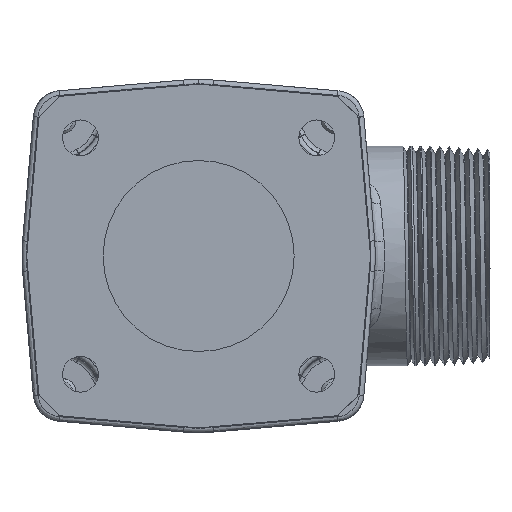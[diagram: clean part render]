
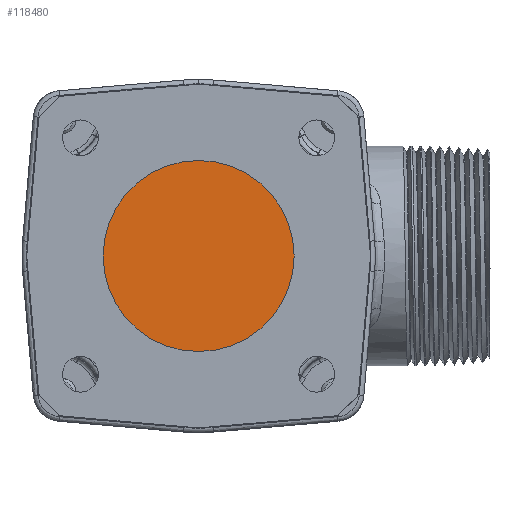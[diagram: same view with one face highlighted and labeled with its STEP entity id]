
A CAD part, left-side view. The second image highlights one B-rep face of the part: STEP entity #118480.
In plain terms, the highlighted planar face has unit normal (-1, 0, 0).
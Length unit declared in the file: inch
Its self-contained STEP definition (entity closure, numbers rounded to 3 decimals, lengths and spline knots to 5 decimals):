
#28684 = CARTESIAN_POINT ( 'NONE',  ( -1.657, 0., 0. ) ) ;
#30340 = AXIS2_PLACEMENT_3D ( 'NONE', #108002, #120768, #45101 ) ;
#35500 = FACE_OUTER_BOUND ( 'NONE', #127627, .T. ) ;
#39400 = ORIENTED_EDGE ( 'NONE', *, *, #77216, .T. ) ;
#41378 = DIRECTION ( 'NONE',  ( 0., 0., -1. ) ) ;
#45101 = DIRECTION ( 'NONE',  ( 0., 0., 1. ) ) ;
#56714 = AXIS2_PLACEMENT_3D ( 'NONE', #66261, #154584, #78957 ) ;
#64675 = ORIENTED_EDGE ( 'NONE', *, *, #116319, .T. ) ;
#66261 = CARTESIAN_POINT ( 'NONE',  ( -1.657, 0., 0. ) ) ;
#77216 = EDGE_CURVE ( 'NONE', #138041, #111747, #99060, .T. ) ;
#78957 = DIRECTION ( 'NONE',  ( 0., 0., -1. ) ) ;
#86913 = CARTESIAN_POINT ( 'NONE',  ( -1.657, 0., -1.25 ) ) ;
#95331 = PLANE ( 'NONE',  #30340 ) ;
#99060 = CIRCLE ( 'NONE', #117000, 1.25 ) ;
#108002 = CARTESIAN_POINT ( 'NONE',  ( -1.657, 0., 0. ) ) ;
#111747 = VERTEX_POINT ( 'NONE', #120508 ) ;
#112840 = CIRCLE ( 'NONE', #56714, 1.25 ) ;
#116319 = EDGE_CURVE ( 'NONE', #111747, #138041, #112840, .T. ) ;
#117000 = AXIS2_PLACEMENT_3D ( 'NONE', #28684, #117042, #41378 ) ;
#117042 = DIRECTION ( 'NONE',  ( -1., 0., 0. ) ) ;
#118480 = ADVANCED_FACE ( 'NONE', ( #35500 ), #95331, .T. ) ;
#120508 = CARTESIAN_POINT ( 'NONE',  ( -1.657, 0., 1.25 ) ) ;
#120768 = DIRECTION ( 'NONE',  ( -1., 0., 0. ) ) ;
#127627 = EDGE_LOOP ( 'NONE', ( #64675, #39400 ) ) ;
#138041 = VERTEX_POINT ( 'NONE', #86913 ) ;
#154584 = DIRECTION ( 'NONE',  ( -1., 0., 0. ) ) ;
